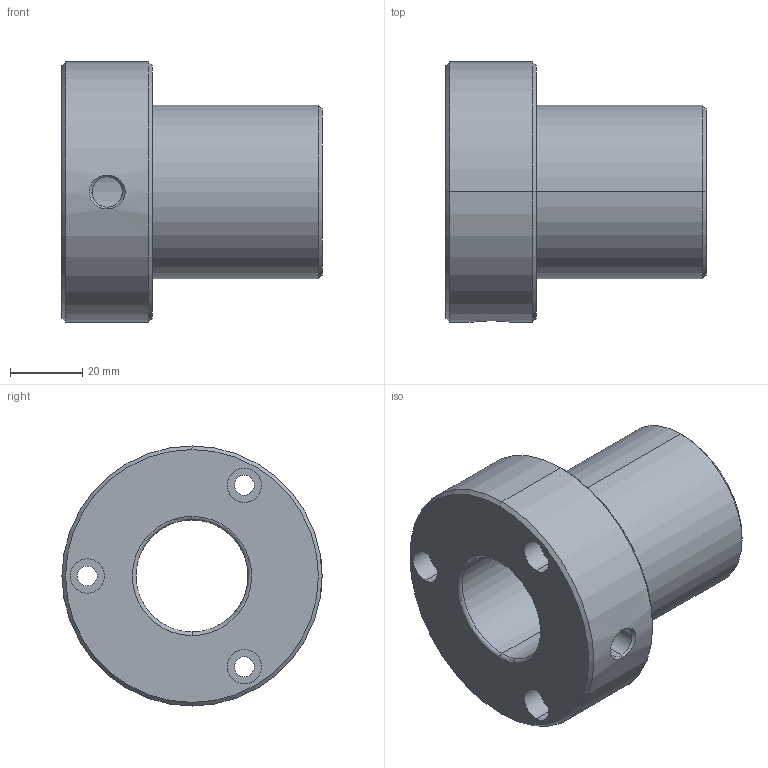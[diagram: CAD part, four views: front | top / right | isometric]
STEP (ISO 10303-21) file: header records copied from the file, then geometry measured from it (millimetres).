
FILE_DESCRIPTION(('CATIA V5 STEP Exchange'),'2;1');
FILE_NAME('C:\Users\Utente\Desktop\IO LAVORO\3D X SITO CF\X SITO\3D files 346\346-31.stp','2020-12-25T21:26:18+00:00',('none'),('none'),'CATIA Version 5 Release 20 GA (IN-10)','CATIA V5 STEP AP203','none');
FILE_SCHEMA(('CONFIG_CONTROL_DESIGN'));
Length unit declared in the file: millimetre
Products named in the file (1): 346-31
Bounding box: 72 x 72 x 72 mm (x, y, z)
Volume: 127599.6 mm3; surface area: 27841.5 mm2
Topology: 1 solids, 1 shells, 39 faces, 146 edges, 114 vertices
Faces by surface type: cylinder 22, cone 8, plane 7, torus 2
Entity records: 1922 total; most frequent: CARTESIAN_POINT 632, ORIENTED_EDGE 292, DIRECTION 198, EDGE_CURVE 146, AXIS2_PLACEMENT_3D 130, VERTEX_POINT 114, CIRCLE 90, EDGE_LOOP 54
